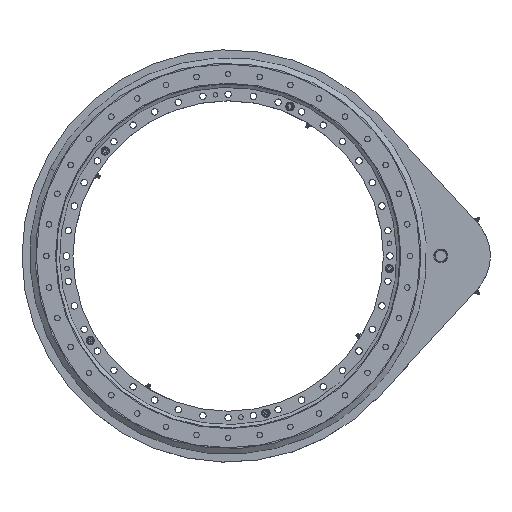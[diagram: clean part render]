
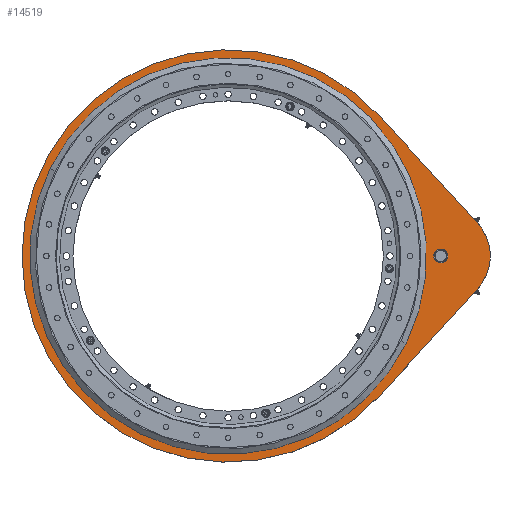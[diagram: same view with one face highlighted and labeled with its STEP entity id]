
A CAD part, top view. The second image highlights one B-rep face of the part: STEP entity #14519.
In plain terms, the highlighted planar face has unit normal (0, 0, 1).
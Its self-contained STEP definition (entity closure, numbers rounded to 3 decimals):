
#261 = CARTESIAN_POINT ( 'NONE',  ( -508.981, 23.74, 637. ) ) ;
#1023 = LINE ( 'NONE', #30259, #22665 ) ;
#1708 = DIRECTION ( 'NONE',  ( 0., 0., -1. ) ) ;
#2347 = DIRECTION ( 'NONE',  ( -1., 0., 0. ) ) ;
#2379 = FACE_BOUND ( 'NONE', #22781, .T. ) ;
#2549 = FACE_BOUND ( 'NONE', #6096, .T. ) ;
#2604 = EDGE_CURVE ( 'NONE', #2994, #15138, #6392, .T. ) ;
#2653 = AXIS2_PLACEMENT_3D ( 'NONE', #5653, #15462, #25205 ) ;
#2816 = EDGE_CURVE ( 'NONE', #17427, #9257, #12770, .T. ) ;
#2994 = VERTEX_POINT ( 'NONE', #261 ) ;
#3196 = DIRECTION ( 'NONE',  ( -0.675, 0.737, 0. ) ) ;
#3212 = EDGE_CURVE ( 'NONE', #16178, #23906, #5261, .T. ) ;
#4278 = AXIS2_PLACEMENT_3D ( 'NONE', #11914, #1708, #2347 ) ;
#4569 = CARTESIAN_POINT ( 'NONE',  ( 359.019, 23.74, 637. ) ) ;
#4592 = DIRECTION ( 'NONE',  ( 1., 0., 0. ) ) ;
#5261 = CIRCLE ( 'NONE', #4278, 13. ) ;
#5644 = ORIENTED_EDGE ( 'NONE', *, *, #13008, .T. ) ;
#5653 = CARTESIAN_POINT ( 'NONE',  ( 395.019, 23.74, 637. ) ) ;
#6096 = EDGE_LOOP ( 'NONE', ( #10054, #5644 ) ) ;
#6392 = CIRCLE ( 'NONE', #11545, 445. ) ;
#7457 = PLANE ( 'NONE',  #24997 ) ;
#8349 = DIRECTION ( 'NONE',  ( 0.675, 0.737, 0. ) ) ;
#8559 = CIRCLE ( 'NONE', #12147, 106.5 ) ;
#8665 = ORIENTED_EDGE ( 'NONE', *, *, #9655, .T. ) ;
#9257 = VERTEX_POINT ( 'NONE', #26366 ) ;
#9300 = CARTESIAN_POINT ( 'NONE',  ( -63.981, 23.74, 637. ) ) ;
#9616 = EDGE_CURVE ( 'NONE', #21290, #17427, #8559, .T. ) ;
#9655 = EDGE_CURVE ( 'NONE', #9257, #2994, #21850, .T. ) ;
#9708 = FACE_OUTER_BOUND ( 'NONE', #10384, .T. ) ;
#9868 = CARTESIAN_POINT ( 'NONE',  ( 382.019, 23.74, 637. ) ) ;
#10039 = AXIS2_PLACEMENT_3D ( 'NONE', #23658, #27829, #25880 ) ;
#10054 = ORIENTED_EDGE ( 'NONE', *, *, #3212, .T. ) ;
#10384 = EDGE_LOOP ( 'NONE', ( #8665, #17983, #25989, #19439, #19231 ) ) ;
#11330 = CARTESIAN_POINT ( 'NONE',  ( -63.981, 23.74, 637. ) ) ;
#11545 = AXIS2_PLACEMENT_3D ( 'NONE', #11330, #20946, #16613 ) ;
#11914 = CARTESIAN_POINT ( 'NONE',  ( 395.019, 23.74, 637. ) ) ;
#12018 = CARTESIAN_POINT ( 'NONE',  ( 395.019, 23.74, 637. ) ) ;
#12147 = AXIS2_PLACEMENT_3D ( 'NONE', #12018, #24323, #19690 ) ;
#12770 = LINE ( 'NONE', #30329, #18605 ) ;
#13008 = EDGE_CURVE ( 'NONE', #23906, #16178, #19989, .T. ) ;
#14216 = DIRECTION ( 'NONE',  ( 0., 0., 1. ) ) ;
#14466 = ORIENTED_EDGE ( 'NONE', *, *, #16023, .F. ) ;
#14519 = ADVANCED_FACE ( 'NONE', ( #2549, #9708, #2379 ), #7457, .T. ) ;
#15138 = VERTEX_POINT ( 'NONE', #20824 ) ;
#15462 = DIRECTION ( 'NONE',  ( 0., 0., -1. ) ) ;
#16023 = EDGE_CURVE ( 'NONE', #24034, #24914, #23832, .T. ) ;
#16178 = VERTEX_POINT ( 'NONE', #9868 ) ;
#16613 = DIRECTION ( 'NONE',  ( 1., 0., 0. ) ) ;
#17427 = VERTEX_POINT ( 'NONE', #24864 ) ;
#17577 = CARTESIAN_POINT ( 'NONE',  ( 473.56, -48.188, 637. ) ) ;
#17983 = ORIENTED_EDGE ( 'NONE', *, *, #2604, .T. ) ;
#18605 = VECTOR ( 'NONE', #3196, 1000. ) ;
#19231 = ORIENTED_EDGE ( 'NONE', *, *, #2816, .T. ) ;
#19439 = ORIENTED_EDGE ( 'NONE', *, *, #9616, .T. ) ;
#19632 = DIRECTION ( 'NONE',  ( 0., 0., 1. ) ) ;
#19690 = DIRECTION ( 'NONE',  ( 1., 0., 0. ) ) ;
#19989 = CIRCLE ( 'NONE', #2653, 13. ) ;
#20824 = CARTESIAN_POINT ( 'NONE',  ( 264.195, -276.803, 637. ) ) ;
#20946 = DIRECTION ( 'NONE',  ( 0., 0., 1. ) ) ;
#21270 = CARTESIAN_POINT ( 'NONE',  ( -63.981, 23.74, 637. ) ) ;
#21290 = VERTEX_POINT ( 'NONE', #17577 ) ;
#21850 = CIRCLE ( 'NONE', #22359, 445. ) ;
#21872 = CARTESIAN_POINT ( 'NONE',  ( -63.981, 23.74, 637. ) ) ;
#22359 = AXIS2_PLACEMENT_3D ( 'NONE', #9300, #26413, #24020 ) ;
#22665 = VECTOR ( 'NONE', #8349, 1000. ) ;
#22748 = CARTESIAN_POINT ( 'NONE',  ( -486.981, 23.74, 637. ) ) ;
#22781 = EDGE_LOOP ( 'NONE', ( #24025, #14466 ) ) ;
#23017 = EDGE_CURVE ( 'NONE', #24914, #24034, #24572, .T. ) ;
#23658 = CARTESIAN_POINT ( 'NONE',  ( -63.981, 23.74, 637. ) ) ;
#23832 = CIRCLE ( 'NONE', #10039, 423. ) ;
#23906 = VERTEX_POINT ( 'NONE', #27072 ) ;
#24020 = DIRECTION ( 'NONE',  ( 1., 0., 0. ) ) ;
#24025 = ORIENTED_EDGE ( 'NONE', *, *, #23017, .F. ) ;
#24034 = VERTEX_POINT ( 'NONE', #22748 ) ;
#24071 = AXIS2_PLACEMENT_3D ( 'NONE', #21270, #14216, #31135 ) ;
#24323 = DIRECTION ( 'NONE',  ( 0., 0., 1. ) ) ;
#24572 = CIRCLE ( 'NONE', #24071, 423. ) ;
#24864 = CARTESIAN_POINT ( 'NONE',  ( 473.56, 95.668, 637. ) ) ;
#24914 = VERTEX_POINT ( 'NONE', #4569 ) ;
#24997 = AXIS2_PLACEMENT_3D ( 'NONE', #21872, #19632, #4592 ) ;
#25205 = DIRECTION ( 'NONE',  ( -1., 0., 0. ) ) ;
#25880 = DIRECTION ( 'NONE',  ( 1., 0., 0. ) ) ;
#25989 = ORIENTED_EDGE ( 'NONE', *, *, #29810, .T. ) ;
#26366 = CARTESIAN_POINT ( 'NONE',  ( 264.195, 324.283, 637. ) ) ;
#26413 = DIRECTION ( 'NONE',  ( 0., 0., 1. ) ) ;
#27072 = CARTESIAN_POINT ( 'NONE',  ( 408.019, 23.74, 637. ) ) ;
#27829 = DIRECTION ( 'NONE',  ( 0., 0., 1. ) ) ;
#29810 = EDGE_CURVE ( 'NONE', #15138, #21290, #1023, .T. ) ;
#30259 = CARTESIAN_POINT ( 'NONE',  ( 264.195, -276.803, 637. ) ) ;
#30329 = CARTESIAN_POINT ( 'NONE',  ( 264.195, 324.283, 637. ) ) ;
#31135 = DIRECTION ( 'NONE',  ( 1., 0., 0. ) ) ;
